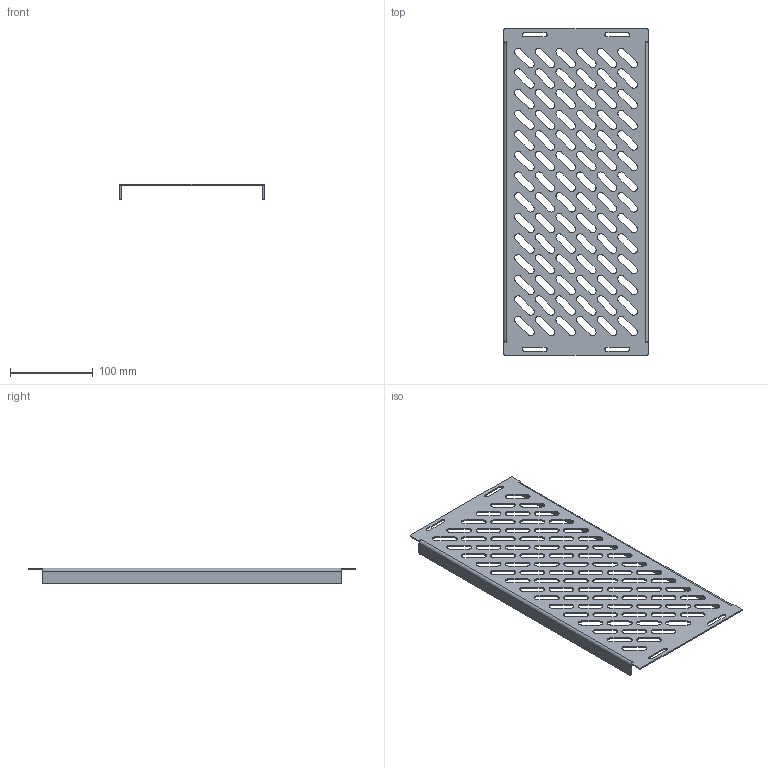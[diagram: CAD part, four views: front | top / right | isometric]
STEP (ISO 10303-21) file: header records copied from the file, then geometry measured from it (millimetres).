
FILE_DESCRIPTION(('STEP AP203'), '1');
FILE_NAME('3007 Ïàíåëü íà äíî ïîäâèæíàÿ', '', ('UNSPECIFIED'), ('UNSPECIFIED'), 'C3D Converter', 'C3D Toolkit', '');
FILE_SCHEMA(('CONFIG_CONTROL_DESIGN'));
Length unit declared in the file: millimetre
Products named in the file (1): 3007.100.175.П
Bounding box: 175 x 395 x 19 mm (x, y, z)
Volume: 90397.6 mm3; surface area: 131545.3 mm2
Topology: 1 solids, 1 shells, 398 faces, 1172 edges, 776 vertices
Faces by surface type: plane 202, cylinder 196
Entity records: 13732 total; most frequent: DIRECTION 2362, CARTESIAN_POINT 2347, ORIENTED_EDGE 2344, EDGE_CURVE 1172, AXIS2_PLACEMENT_3D 791, LINE 780, VECTOR 780, VERTEX_POINT 776
